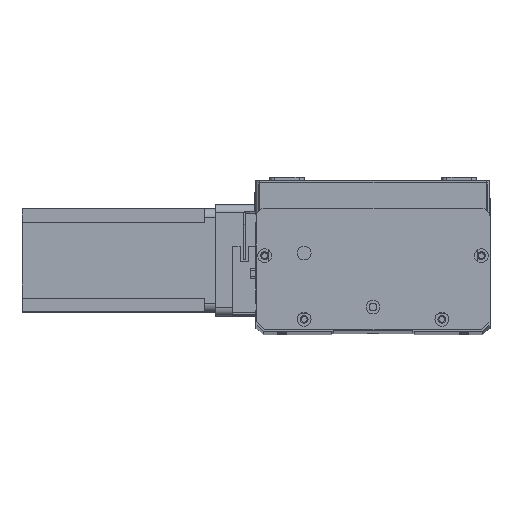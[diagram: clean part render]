
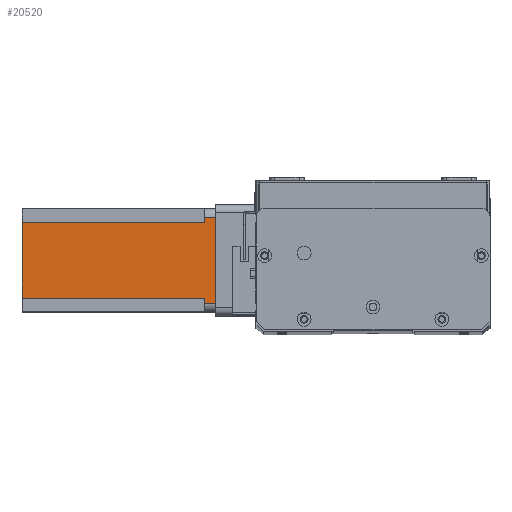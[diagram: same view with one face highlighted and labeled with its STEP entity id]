
A CAD part, top view. The second image highlights one B-rep face of the part: STEP entity #20520.
In plain terms, the highlighted planar face has unit normal (0, 0, 1) as drawn and (0, -1, 0) by its records, which use the part's own axes.
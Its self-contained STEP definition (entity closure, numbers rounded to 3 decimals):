
#50 = CARTESIAN_POINT ( 'NONE',  ( 55., 0., -6.5 ) ) ;
#506 = DIRECTION ( 'NONE',  ( 0., 0., 1. ) ) ;
#825 = EDGE_LOOP ( 'NONE', ( #18075, #5712, #12583, #8318, #1658, #24703, #25703, #24883 ) ) ;
#1414 = EDGE_CURVE ( 'NONE', #8156, #6883, #4461, .T. ) ;
#1658 = ORIENTED_EDGE ( 'NONE', *, *, #19334, .F. ) ;
#1774 = VERTEX_POINT ( 'NONE', #50 ) ;
#3189 = LINE ( 'NONE', #6272, #23788 ) ;
#4355 = DIRECTION ( 'NONE',  ( 1., 0., 0. ) ) ;
#4460 = VECTOR ( 'NONE', #12085, 1000. ) ;
#4461 = LINE ( 'NONE', #10950, #9795 ) ;
#5211 = VECTOR ( 'NONE', #7833, 1000. ) ;
#5284 = CARTESIAN_POINT ( 'NONE',  ( 52., 0., -6.5 ) ) ;
#5712 = ORIENTED_EDGE ( 'NONE', *, *, #15098, .T. ) ;
#5828 = LINE ( 'NONE', #19782, #5211 ) ;
#6272 = CARTESIAN_POINT ( 'NONE',  ( 0., 0., -112.5 ) ) ;
#6883 = VERTEX_POINT ( 'NONE', #18176 ) ;
#7785 = VERTEX_POINT ( 'NONE', #20793 ) ;
#7833 = DIRECTION ( 'NONE',  ( 0., 0., 1. ) ) ;
#8156 = VERTEX_POINT ( 'NONE', #10072 ) ;
#8318 = ORIENTED_EDGE ( 'NONE', *, *, #1414, .T. ) ;
#9706 = DIRECTION ( 'NONE',  ( 0., -1., 0. ) ) ;
#9795 = VECTOR ( 'NONE', #24920, 1000. ) ;
#10072 = CARTESIAN_POINT ( 'NONE',  ( 5., 0., 0. ) ) ;
#10365 = EDGE_CURVE ( 'NONE', #19289, #7785, #22024, .T. ) ;
#10866 = VERTEX_POINT ( 'NONE', #17277 ) ;
#10950 = CARTESIAN_POINT ( 'NONE',  ( 5., 0., -112.5 ) ) ;
#11316 = CARTESIAN_POINT ( 'NONE',  ( 8., 0., -6.5 ) ) ;
#11334 = EDGE_CURVE ( 'NONE', #8156, #10866, #11354, .T. ) ;
#11354 = LINE ( 'NONE', #18637, #16044 ) ;
#12085 = DIRECTION ( 'NONE',  ( 1., 0., 0. ) ) ;
#12583 = ORIENTED_EDGE ( 'NONE', *, *, #11334, .F. ) ;
#12600 = DIRECTION ( 'NONE',  ( 1., 0., 0. ) ) ;
#14953 = VECTOR ( 'NONE', #15429, 1000. ) ;
#15098 = EDGE_CURVE ( 'NONE', #1774, #10866, #5828, .T. ) ;
#15203 = FACE_OUTER_BOUND ( 'NONE', #825, .T. ) ;
#15429 = DIRECTION ( 'NONE',  ( -1., 0., 0. ) ) ;
#15471 = VECTOR ( 'NONE', #19406, 1000. ) ;
#15627 = PLANE ( 'NONE',  #21031 ) ;
#16044 = VECTOR ( 'NONE', #12600, 1000. ) ;
#16114 = CARTESIAN_POINT ( 'NONE',  ( 52., 0., -6.5 ) ) ;
#16922 = CARTESIAN_POINT ( 'NONE',  ( 8., 0., -112.5 ) ) ;
#17153 = VECTOR ( 'NONE', #506, 1000. ) ;
#17277 = CARTESIAN_POINT ( 'NONE',  ( 55., 0., 0. ) ) ;
#18075 = ORIENTED_EDGE ( 'NONE', *, *, #22749, .T. ) ;
#18176 = CARTESIAN_POINT ( 'NONE',  ( 5., 0., -6.5 ) ) ;
#18414 = LINE ( 'NONE', #20394, #17153 ) ;
#18461 = CARTESIAN_POINT ( 'NONE',  ( 8., 0., -6.5 ) ) ;
#18637 = CARTESIAN_POINT ( 'NONE',  ( 0., 0., 0. ) ) ;
#19022 = EDGE_CURVE ( 'NONE', #24686, #25690, #18414, .T. ) ;
#19289 = VERTEX_POINT ( 'NONE', #5284 ) ;
#19334 = EDGE_CURVE ( 'NONE', #25690, #6883, #20256, .T. ) ;
#19406 = DIRECTION ( 'NONE',  ( 0., 0., -1. ) ) ;
#19762 = LINE ( 'NONE', #16114, #4460 ) ;
#19782 = CARTESIAN_POINT ( 'NONE',  ( 55., 0., -112.5 ) ) ;
#20256 = LINE ( 'NONE', #11316, #14953 ) ;
#20394 = CARTESIAN_POINT ( 'NONE',  ( 8., 0., -112.5 ) ) ;
#20520 = ADVANCED_FACE ( 'NONE', ( #15203 ), #15627, .T. ) ;
#20793 = CARTESIAN_POINT ( 'NONE',  ( 52., 0., -112.5 ) ) ;
#21031 = AXIS2_PLACEMENT_3D ( 'NONE', #21651, #9706, #23638 ) ;
#21651 = CARTESIAN_POINT ( 'NONE',  ( 0., 0., -112.5 ) ) ;
#22024 = LINE ( 'NONE', #25428, #15471 ) ;
#22749 = EDGE_CURVE ( 'NONE', #19289, #1774, #19762, .T. ) ;
#23638 = DIRECTION ( 'NONE',  ( 0., 0., -1. ) ) ;
#23788 = VECTOR ( 'NONE', #4355, 1000. ) ;
#24042 = EDGE_CURVE ( 'NONE', #24686, #7785, #3189, .T. ) ;
#24686 = VERTEX_POINT ( 'NONE', #16922 ) ;
#24703 = ORIENTED_EDGE ( 'NONE', *, *, #19022, .F. ) ;
#24883 = ORIENTED_EDGE ( 'NONE', *, *, #10365, .F. ) ;
#24920 = DIRECTION ( 'NONE',  ( 0., 0., -1. ) ) ;
#25428 = CARTESIAN_POINT ( 'NONE',  ( 52., 0., -112.5 ) ) ;
#25690 = VERTEX_POINT ( 'NONE', #18461 ) ;
#25703 = ORIENTED_EDGE ( 'NONE', *, *, #24042, .T. ) ;
